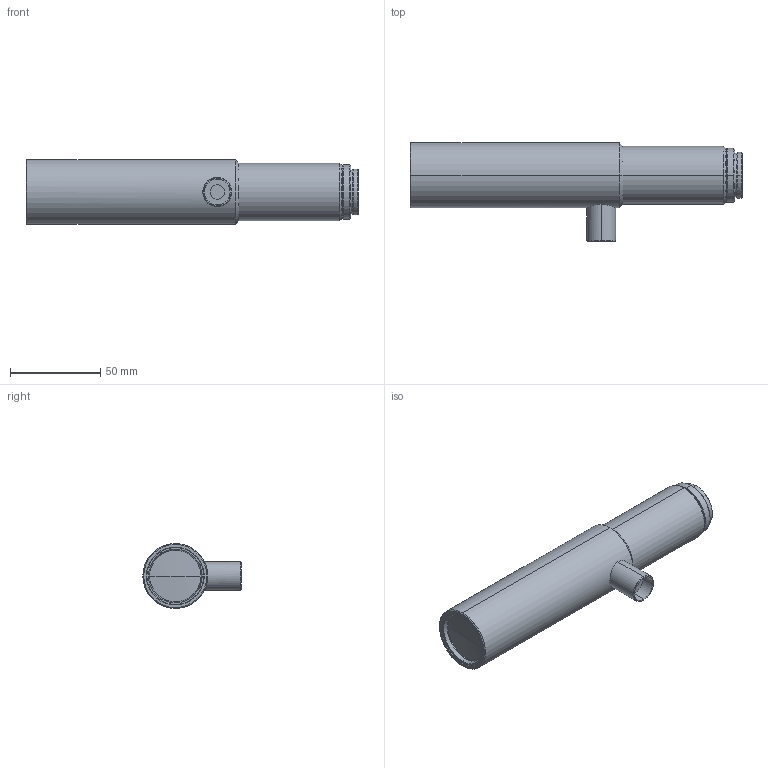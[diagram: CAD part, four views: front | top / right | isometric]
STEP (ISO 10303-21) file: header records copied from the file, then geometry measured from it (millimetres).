
FILE_DESCRIPTION (( 'STEP AP203' ), '1' );
FILE_NAME ('VS-TC1-300CO.STEP', '2013-04-10T02:49:45', ( 'VS Technology' ), ( '' ), 'SwSTEP 2.0', 'SolidWorks 2012', '' );
FILE_SCHEMA (( 'CONFIG_CONTROL_DESIGN' ));
Length unit declared in the file: millimetre
Products named in the file (1): VS-TC1-300CO
Bounding box: 184 x 54.5 x 36 mm (x, y, z)
Volume: 158288.4 mm3; surface area: 26185.6 mm2
Topology: 1 solids, 1 shells, 79 faces, 160 edges, 96 vertices
Faces by surface type: cylinder 32, cone 30, plane 13, sphere 4
Entity records: 2243 total; most frequent: CARTESIAN_POINT 432, DIRECTION 414, ORIENTED_EDGE 320, AXIS2_PLACEMENT_3D 176, EDGE_CURVE 160, CIRCLE 96, VERTEX_POINT 96, EDGE_LOOP 92
